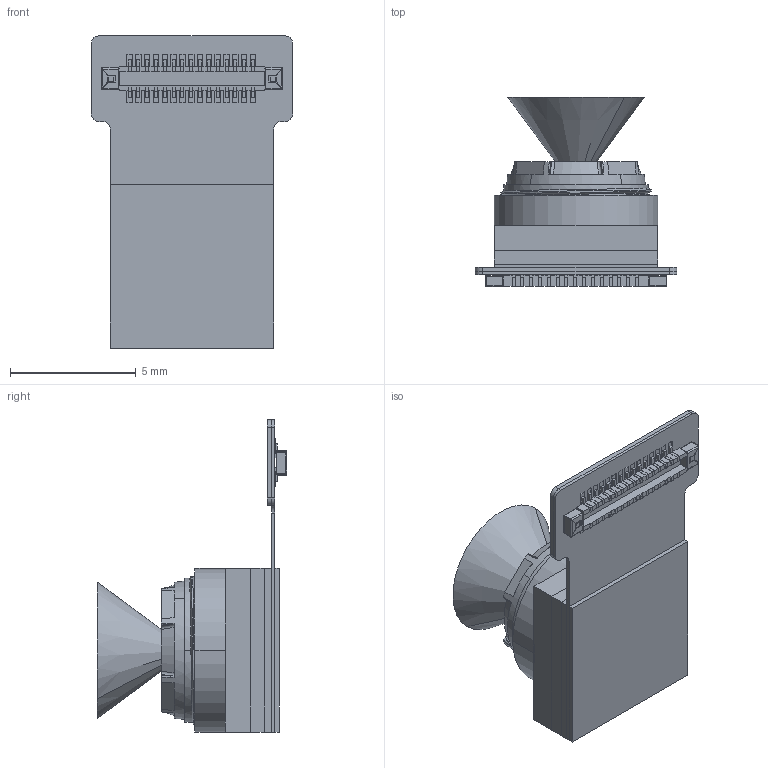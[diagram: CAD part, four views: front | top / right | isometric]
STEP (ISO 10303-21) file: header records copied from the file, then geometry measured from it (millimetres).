
FILE_DESCRIPTION((''),'2;1');
FILE_NAME('CU1121-D_VD56G3_FO0001_ASM','2024-05-23T09:50:39',('mech1'),(''),'CREO PARAMETRIC BY PTC INC, 2021404','CREO PARAMETRIC BY PTC INC, 2021404','');
FILE_SCHEMA(('CONFIG_CONTROL_DESIGN'));
Length unit declared in the file: millimetre
Products named in the file (22): FPC_2; STEEL-1_1; STEEL-2_1; FPC_ASM_ASM_1_ASM; 00_5_1; 00_3-58114_1; 00_7_1; 00_1_1; 00_3-62643_1; 00_3-63062_1; VD56G3000_ASM_8_ASM_1_ASM; VD56G3_PLCC28_ASM_2_ASM; HOLDER_8; MSBR-4_1; MSBR-3_1; MSBR-2_1; MSBR-1_2; _M5291A-00_ASM_1; M5291A-00_ASM_ASM_1_ASM; BM28B06-30DP_3; CU1121-D_ASM_4_ASM; CU1121-D_VD56G3_FO0001_ASM
Assembly tree (30 placements, depth 5):
  CU1121-D_VD56G3_FO0001_ASM
    CU1121-D_ASM_4_ASM
      FPC_ASM_ASM_1_ASM
        FPC_2
        STEEL-1_1
        STEEL-2_1
      VD56G3_PLCC28_ASM_2_ASM
        VD56G3000_ASM_8_ASM_1_ASM
          00_5_1
          00_3-58114_1
          00_7_1
          00_1_1  x10
          00_3-62643_1
          00_3-63062_1
      HOLDER_8
      M5291A-00_ASM_ASM_1_ASM
        MSBR-4_1
        MSBR-3_1
        MSBR-2_1
        MSBR-1_2
        _M5291A-00_ASM_1
      BM28B06-30DP_3
Bounding box: 8 x 7.55 x 12.4 mm (x, y, z)
Volume: 149.9 mm3; surface area: 1070.9 mm2
Topology: 23 solids, 55 shells, 2322 faces, 5662 edges, 3737 vertices
Faces by surface type: plane 2164, cylinder 90, cone 45, bspline 10, revolution 8, torus 5
Entity records: 64734 total; most frequent: CARTESIAN_POINT 12846, ORIENTED_EDGE 10646, DIRECTION 9906, EDGE_CURVE 5328, VECTOR 4912, LINE 4912, VERTEX_POINT 3519, AXIS2_PLACEMENT_3D 2493
